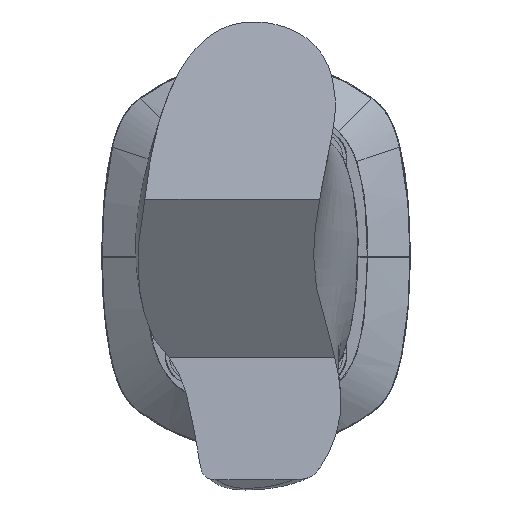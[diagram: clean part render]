
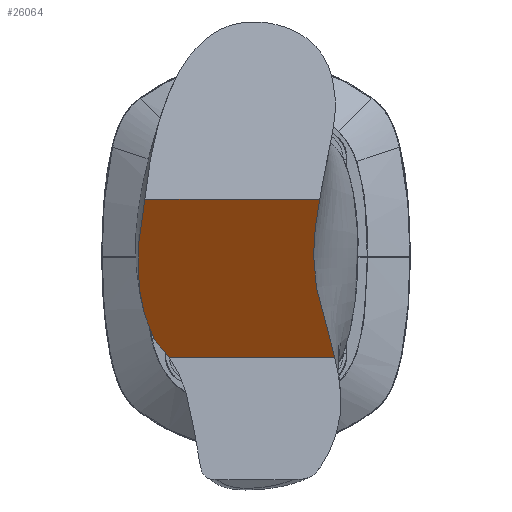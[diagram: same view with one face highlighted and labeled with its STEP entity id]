
A CAD part, left-side view. The second image highlights one B-rep face of the part: STEP entity #26064.
In plain terms, the highlighted planar face has unit normal (-0.826, 0, -0.563) as drawn and (0, 0.826, 0.563) by its records, which use the part's own axes.
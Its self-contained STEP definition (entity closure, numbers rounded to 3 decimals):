
#135 = DIRECTION ( 'NONE',  ( 0., 0.563, -0.826 ) ) ;
#274 = CARTESIAN_POINT ( 'NONE',  ( 8.991, 160.922, 2.449 ) ) ;
#326 = LINE ( 'NONE', #64840, #8756 ) ;
#1860 = EDGE_CURVE ( 'NONE', #25410, #34496, #44121, .T. ) ;
#2037 = CARTESIAN_POINT ( 'NONE',  ( -13.468, 151.94, 15.62 ) ) ;
#2374 = VERTEX_POINT ( 'NONE', #59457 ) ;
#3510 = VERTEX_POINT ( 'NONE', #64664 ) ;
#4418 = CARTESIAN_POINT ( 'NONE',  ( -15.199, 153.336, 13.573 ) ) ;
#5079 = EDGE_CURVE ( 'NONE', #34496, #38929, #59767, .T. ) ;
#6017 = CARTESIAN_POINT ( 'NONE',  ( -13.447, 151.923, 15.645 ) ) ;
#7367 = CARTESIAN_POINT ( 'NONE',  ( -15.989, 154.186, 12.326 ) ) ;
#8756 = VECTOR ( 'NONE', #19305, 1000. ) ;
#10333 = EDGE_CURVE ( 'NONE', #3510, #2374, #22464, .T. ) ;
#10904 = CARTESIAN_POINT ( 'NONE',  ( 8.911, 163.015, -0.62 ) ) ;
#11707 = CARTESIAN_POINT ( 'NONE',  ( -16.721, 155.365, 10.597 ) ) ;
#12359 = CARTESIAN_POINT ( 'NONE',  ( -17.832, 158.079, 6.618 ) ) ;
#12473 = DIRECTION ( 'NONE',  ( 1., 0., 0. ) ) ;
#13794 = ORIENTED_EDGE ( 'NONE', *, *, #62794, .T. ) ;
#14091 = PLANE ( 'NONE',  #33132 ) ;
#14902 = CARTESIAN_POINT ( 'NONE',  ( 8.948, 163.713, -1.643 ) ) ;
#15546 = ORIENTED_EDGE ( 'NONE', *, *, #1860, .T. ) ;
#15751 = CARTESIAN_POINT ( 'NONE',  ( -13.51, 151.975, 15.569 ) ) ;
#17688 = CARTESIAN_POINT ( 'NONE',  ( -16.188, 154.48, 11.896 ) ) ;
#17892 = EDGE_LOOP ( 'NONE', ( #13794, #53021, #51148, #27806, #15546, #64525, #32324 ) ) ;
#17995 = CARTESIAN_POINT ( 'NONE',  ( -17.432, 156.862, 8.402 ) ) ;
#18373 = EDGE_CURVE ( 'NONE', #2374, #58453, #25359, .T. ) ;
#19062 = CARTESIAN_POINT ( 'NONE',  ( -15.628, 153.697, 13.044 ) ) ;
#19305 = DIRECTION ( 'NONE',  ( 1., 0., 0. ) ) ;
#22354 = CARTESIAN_POINT ( 'NONE',  ( -17.191, 168.596, -8.803 ) ) ;
#22464 = LINE ( 'NONE', #48048, #32070 ) ;
#25212 = CARTESIAN_POINT ( 'NONE',  ( 11.042, 154.68, 11.603 ) ) ;
#25359 = B_SPLINE_CURVE_WITH_KNOTS ( 'NONE', 3,
 ( #39847, #46151, #31191, #25212, #56114, #30538, #55789, #30860, #45828, #60121, #274, #60450, #55464, #50796, #10904, #14902, #51119, #45502, #40830, #45170, #34857, #50474 ),
 .UNSPECIFIED., .F., .F.,
 ( 4, 2, 2, 2, 2, 2, 2, 2, 2, 2, 4 ),
 ( 0., 0.004, 0.008, 0.011, 0.015, 0.017, 0.019, 0.021, 0.023, 0.026, 0.03 ),
 .UNSPECIFIED. ) ;
#25397 = FACE_OUTER_BOUND ( 'NONE', #17892, .T. ) ;
#25410 = VERTEX_POINT ( 'NONE', #65538 ) ;
#25972 = CARTESIAN_POINT ( 'NONE',  ( -13.489, 151.957, 15.594 ) ) ;
#26039 = CARTESIAN_POINT ( 'NONE',  ( -14.615, 152.891, 14.226 ) ) ;
#26064 = ADVANCED_FACE ( 'NONE', ( #25397 ), #14091, .F. ) ;
#26277 = B_SPLINE_CURVE_WITH_KNOTS ( 'NONE', 3,
 ( #27371, #26039, #41025, #15751 ),
 .UNSPECIFIED., .F., .F.,
 ( 4, 4 ),
 ( 0., 0.003 ),
 .UNSPECIFIED. ) ;
#26976 = CARTESIAN_POINT ( 'NONE',  ( -13.51, 151.975, 15.569 ) ) ;
#27371 = CARTESIAN_POINT ( 'NONE',  ( -15.199, 153.336, 13.573 ) ) ;
#27806 = ORIENTED_EDGE ( 'NONE', *, *, #29757, .F. ) ;
#27988 = CARTESIAN_POINT ( 'NONE',  ( -16.554, 155.069, 11.032 ) ) ;
#29757 = EDGE_CURVE ( 'NONE', #25410, #58453, #326, .T. ) ;
#30538 = CARTESIAN_POINT ( 'NONE',  ( 10.187, 156.747, 8.572 ) ) ;
#30860 = CARTESIAN_POINT ( 'NONE',  ( 9.455, 158.83, 5.518 ) ) ;
#31191 = CARTESIAN_POINT ( 'NONE',  ( 11.625, 153.303, 13.621 ) ) ;
#31996 = CARTESIAN_POINT ( 'NONE',  ( -18.258, 160.557, 2.985 ) ) ;
#32070 = VECTOR ( 'NONE', #12473, 1000. ) ;
#32324 = ORIENTED_EDGE ( 'NONE', *, *, #61507, .T. ) ;
#32979 = CARTESIAN_POINT ( 'NONE',  ( -18.195, 159.931, 3.902 ) ) ;
#33132 = AXIS2_PLACEMENT_3D ( 'NONE', #35376, #45685, #135 ) ;
#34443 = CARTESIAN_POINT ( 'NONE',  ( -15.199, 153.336, 13.573 ) ) ;
#34496 = VERTEX_POINT ( 'NONE', #61285 ) ;
#34857 = CARTESIAN_POINT ( 'NONE',  ( 9.648, 167.9, -7.783 ) ) ;
#35376 = CARTESIAN_POINT ( 'NONE',  ( -21.524, 151.923, 15.645 ) ) ;
#38929 = VERTEX_POINT ( 'NONE', #34443 ) ;
#39847 = CARTESIAN_POINT ( 'NONE',  ( 12.178, 151.923, 15.645 ) ) ;
#40830 = CARTESIAN_POINT ( 'NONE',  ( 9.192, 165.806, -4.713 ) ) ;
#41025 = CARTESIAN_POINT ( 'NONE',  ( -14.061, 152.433, 14.897 ) ) ;
#42964 = CARTESIAN_POINT ( 'NONE',  ( -15.776, 153.897, 12.75 ) ) ;
#43260 = CARTESIAN_POINT ( 'NONE',  ( 9.841, 168.596, -8.803 ) ) ;
#44121 = B_SPLINE_CURVE_WITH_KNOTS ( 'NONE', 3,
 ( #22354, #63537, #53556, #52913, #52260, #31996, #32979, #57909, #12359, #17995, #57245, #11707, #27988, #17688, #7367, #42964 ),
 .UNSPECIFIED., .F., .F.,
 ( 4, 2, 2, 2, 2, 2, 2, 4 ),
 ( 0., 0.007, 0.013, 0.017, 0.02, 0.023, 0.025, 0.026 ),
 .UNSPECIFIED. ) ;
#44163 = VERTEX_POINT ( 'NONE', #64579 ) ;
#45170 = CARTESIAN_POINT ( 'NONE',  ( 9.475, 167.202, -6.759 ) ) ;
#45502 = CARTESIAN_POINT ( 'NONE',  ( 9.084, 165.108, -3.689 ) ) ;
#45685 = DIRECTION ( 'NONE',  ( 0., -0.826, -0.563 ) ) ;
#45828 = CARTESIAN_POINT ( 'NONE',  ( 9.256, 159.528, 4.494 ) ) ;
#46151 = CARTESIAN_POINT ( 'NONE',  ( 11.915, 152.615, 14.631 ) ) ;
#48048 = CARTESIAN_POINT ( 'NONE',  ( -21.524, 151.923, 15.645 ) ) ;
#50474 = CARTESIAN_POINT ( 'NONE',  ( 9.841, 168.596, -8.803 ) ) ;
#50796 = CARTESIAN_POINT ( 'NONE',  ( 8.897, 162.666, -0.108 ) ) ;
#51119 = CARTESIAN_POINT ( 'NONE',  ( 8.975, 164.062, -2.155 ) ) ;
#51148 = ORIENTED_EDGE ( 'NONE', *, *, #18373, .T. ) ;
#52260 = CARTESIAN_POINT ( 'NONE',  ( -18.331, 162.424, 0.246 ) ) ;
#52913 = CARTESIAN_POINT ( 'NONE',  ( -18.23, 163.664, -1.571 ) ) ;
#53021 = ORIENTED_EDGE ( 'NONE', *, *, #10333, .T. ) ;
#53556 = CARTESIAN_POINT ( 'NONE',  ( -17.835, 166.135, -5.194 ) ) ;
#54011 = B_SPLINE_CURVE_WITH_KNOTS ( 'NONE', 3,
 ( #26976, #25972, #2037, #6017 ),
 .UNSPECIFIED., .F., .F.,
 ( 4, 4 ),
 ( 0., 0. ),
 .UNSPECIFIED. ) ;
#55464 = CARTESIAN_POINT ( 'NONE',  ( 8.899, 161.969, 0.914 ) ) ;
#55789 = CARTESIAN_POINT ( 'NONE',  ( 9.921, 157.438, 7.558 ) ) ;
#56114 = CARTESIAN_POINT ( 'NONE',  ( 10.747, 155.367, 10.594 ) ) ;
#57245 = CARTESIAN_POINT ( 'NONE',  ( -17.182, 156.26, 9.286 ) ) ;
#57909 = CARTESIAN_POINT ( 'NONE',  ( -17.983, 158.693, 5.718 ) ) ;
#58453 = VERTEX_POINT ( 'NONE', #43260 ) ;
#59457 = CARTESIAN_POINT ( 'NONE',  ( 12.178, 151.923, 15.645 ) ) ;
#59767 = B_SPLINE_CURVE_WITH_KNOTS ( 'NONE', 3,
 ( #64933, #19062, #60598, #4418 ),
 .UNSPECIFIED., .F., .F.,
 ( 4, 4 ),
 ( 0., 0.001 ),
 .UNSPECIFIED. ) ;
#60121 = CARTESIAN_POINT ( 'NONE',  ( 9.046, 160.574, 2.96 ) ) ;
#60450 = CARTESIAN_POINT ( 'NONE',  ( 8.916, 161.62, 1.426 ) ) ;
#60598 = CARTESIAN_POINT ( 'NONE',  ( -15.428, 153.51, 13.317 ) ) ;
#61285 = CARTESIAN_POINT ( 'NONE',  ( -15.776, 153.897, 12.75 ) ) ;
#61507 = EDGE_CURVE ( 'NONE', #38929, #44163, #26277, .T. ) ;
#62794 = EDGE_CURVE ( 'NONE', #44163, #3510, #54011, .T. ) ;
#63537 = CARTESIAN_POINT ( 'NONE',  ( -17.543, 167.366, -7. ) ) ;
#64525 = ORIENTED_EDGE ( 'NONE', *, *, #5079, .T. ) ;
#64579 = CARTESIAN_POINT ( 'NONE',  ( -13.51, 151.975, 15.569 ) ) ;
#64664 = CARTESIAN_POINT ( 'NONE',  ( -13.447, 151.923, 15.645 ) ) ;
#64840 = CARTESIAN_POINT ( 'NONE',  ( -21.524, 168.596, -8.803 ) ) ;
#64933 = CARTESIAN_POINT ( 'NONE',  ( -15.776, 153.897, 12.75 ) ) ;
#65538 = CARTESIAN_POINT ( 'NONE',  ( -17.191, 168.596, -8.803 ) ) ;
